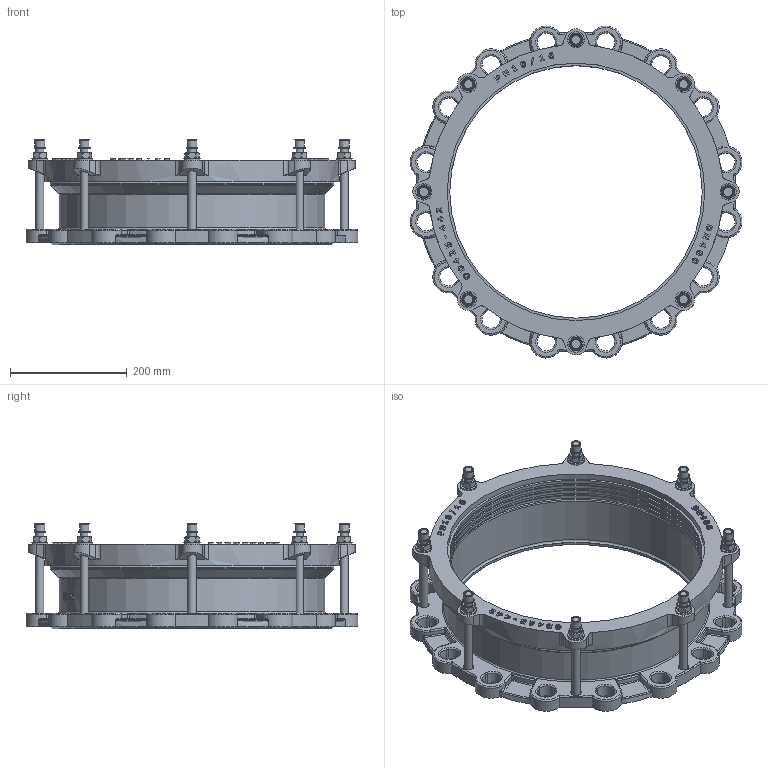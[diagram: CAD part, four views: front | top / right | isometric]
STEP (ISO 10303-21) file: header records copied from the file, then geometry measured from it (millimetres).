
FILE_DESCRIPTION(('STEP AP203'), '1');
FILE_NAME('Ôëàíöåâûé àäàïòåð', '', ('UNSPECIFIED'), ('UNSPECIFIED'), 'C3D Converter', 'C3D Toolkit', '');
FILE_SCHEMA(('CONFIG_CONTROL_DESIGN'));
Length unit declared in the file: millimetre
Assembly tree (35 placements, depth 2):
  (unnamed)
    (unnamed)
    (unnamed)  x8
    (unnamed)  x8
    (unnamed)  x8
    (unnamed)  x8
    (unnamed)
    (unnamed)
Bounding box: 569.89 x 569.89 x 181.4 mm (x, y, z)
Volume: 5056042.2 mm3; surface area: 1097984.3 mm2
Topology: 35 solids, 35 shells, 1501 faces, 3733 edges, 2264 vertices
Faces by surface type: plane 525, cylinder 415, extrusion 258, torus 139, cone 60, bspline 60, sphere 44
Full cylindrical faces by diameter (mm): 13.478 x1, 14 x24, 15 x8, 16 x16, 16.8 x8, 19.6 x8, 28 x8, 433.5 x5, 437.75 x3, 442 x2, 449 x1, 456 x2, 487.5 x1, 491 x2, 505 x1
Entity records: 54478 total; most frequent: CARTESIAN_POINT 21562, ORIENTED_EDGE 6006, DIRECTION 5329, EDGE_CURVE 3003, VERTEX_POINT 1900, AXIS2_PLACEMENT_3D 1862, VECTOR 1605, EDGE_LOOP 1413
